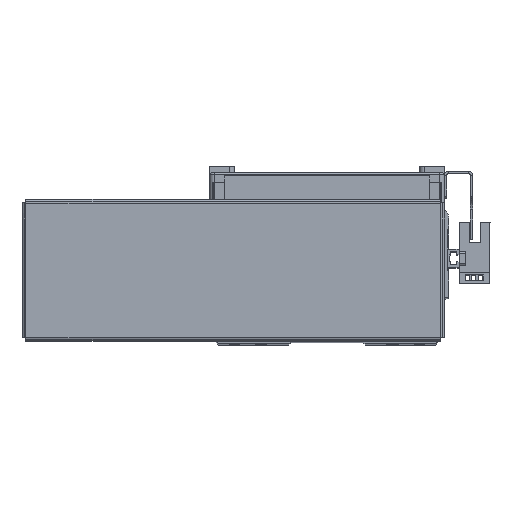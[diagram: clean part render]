
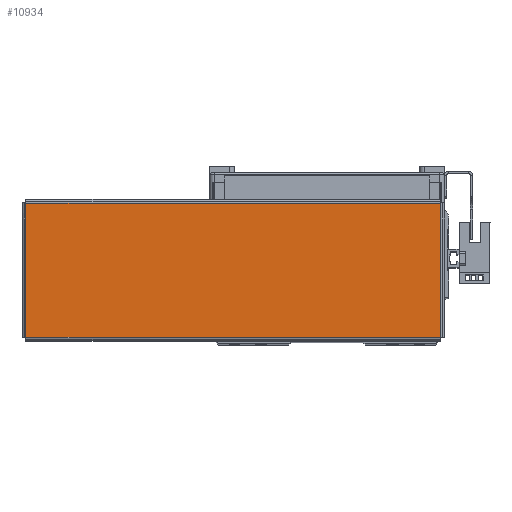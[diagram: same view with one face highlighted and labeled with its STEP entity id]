
A CAD part, top view. The second image highlights one B-rep face of the part: STEP entity #10934.
In plain terms, the highlighted planar face has unit normal (0, 0, 1) as drawn and (0, -1, 0) by its records, which use the part's own axes.
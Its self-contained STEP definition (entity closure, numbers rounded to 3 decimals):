
#6157 = EDGE_LOOP ( 'NONE', ( #11986, #11980, #12012, #11968 ) ) ;
#10934 = ADVANCED_FACE ( 'NONE', ( #28203 ), #55456, .F. ) ;
#11968 = ORIENTED_EDGE ( 'NONE', *, *, #24391, .T. ) ;
#11980 = ORIENTED_EDGE ( 'NONE', *, *, #24351, .T. ) ;
#11986 = ORIENTED_EDGE ( 'NONE', *, *, #24343, .T. ) ;
#12012 = ORIENTED_EDGE ( 'NONE', *, *, #24386, .T. ) ;
#15703 = LINE ( 'NONE', #21138, #15729 ) ;
#15729 = VECTOR ( 'NONE', #21176, 1000. ) ;
#15738 = VECTOR ( 'NONE', #21253, 1000. ) ;
#15743 = LINE ( 'NONE', #21269, #15738 ) ;
#15820 = LINE ( 'NONE', #21464, #15832 ) ;
#15832 = VECTOR ( 'NONE', #21490, 1000. ) ;
#15886 = LINE ( 'NONE', #21428, #15891 ) ;
#15891 = VECTOR ( 'NONE', #21435, 1000. ) ;
#20022 = AXIS2_PLACEMENT_3D ( 'NONE', #55458, #55462, #55479 ) ;
#21138 = CARTESIAN_POINT ( 'NONE',  ( -91.893, -1., -29.763 ) ) ;
#21176 = DIRECTION ( 'NONE',  ( 1., 0., 0. ) ) ;
#21253 = DIRECTION ( 'NONE',  ( 0., 0., 1. ) ) ;
#21269 = CARTESIAN_POINT ( 'NONE',  ( 91.863, -1., -29.793 ) ) ;
#21428 = CARTESIAN_POINT ( 'NONE',  ( 91.893, -1., 29.763 ) ) ;
#21435 = DIRECTION ( 'NONE',  ( -1., 0., 0. ) ) ;
#21464 = CARTESIAN_POINT ( 'NONE',  ( -91.863, -1., 29.793 ) ) ;
#21490 = DIRECTION ( 'NONE',  ( 0., 0., -1. ) ) ;
#24343 = EDGE_CURVE ( 'NONE', #53748, #59478, #15703, .T. ) ;
#24351 = EDGE_CURVE ( 'NONE', #59478, #53731, #15743, .T. ) ;
#24386 = EDGE_CURVE ( 'NONE', #53731, #53705, #15886, .T. ) ;
#24391 = EDGE_CURVE ( 'NONE', #53705, #53748, #15820, .T. ) ;
#28203 = FACE_OUTER_BOUND ( 'NONE', #6157, .T. ) ;
#33063 = CARTESIAN_POINT ( 'NONE',  ( -91.863, -1., -29.763 ) ) ;
#33079 = CARTESIAN_POINT ( 'NONE',  ( 91.863, -1., -29.763 ) ) ;
#33094 = CARTESIAN_POINT ( 'NONE',  ( -91.863, -1., 29.763 ) ) ;
#33096 = CARTESIAN_POINT ( 'NONE',  ( 91.863, -1., 29.763 ) ) ;
#53705 = VERTEX_POINT ( 'NONE', #33094 ) ;
#53731 = VERTEX_POINT ( 'NONE', #33096 ) ;
#53748 = VERTEX_POINT ( 'NONE', #33063 ) ;
#55456 = PLANE ( 'NONE',  #20022 ) ;
#55458 = CARTESIAN_POINT ( 'NONE',  ( 0., -1., 0. ) ) ;
#55462 = DIRECTION ( 'NONE',  ( 0., 1., 0. ) ) ;
#55479 = DIRECTION ( 'NONE',  ( 0., 0., 1. ) ) ;
#59478 = VERTEX_POINT ( 'NONE', #33079 ) ;
